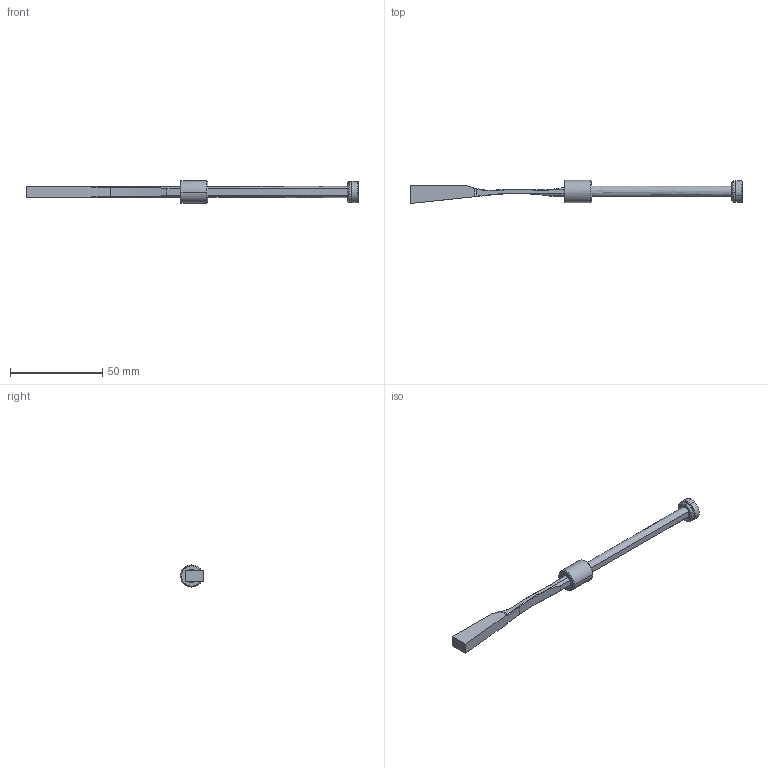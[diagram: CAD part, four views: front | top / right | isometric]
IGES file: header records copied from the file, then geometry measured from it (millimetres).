
Start section: START RECORD GO HERE.
Global section: file name: pw060630_injection.igs; native system: DASSAULT SYSTEMES CATIA V5 R20 - www.3ds.com; preprocessor: CATIA Version 5 Release 20 ; author: Utente; organization: NB04-ASUS; date: 20201108.134858; units: millimetre
Bounding box: 180 x 12.5 x 12 mm (x, y, z)
Surface area: 5881.1 mm2 (no closed solid volume)
Topology: 0 solids, 0 shells, 104 faces, 460 edges, 456 vertices
Faces by surface type: revolution 70, plane 30, bspline 4
